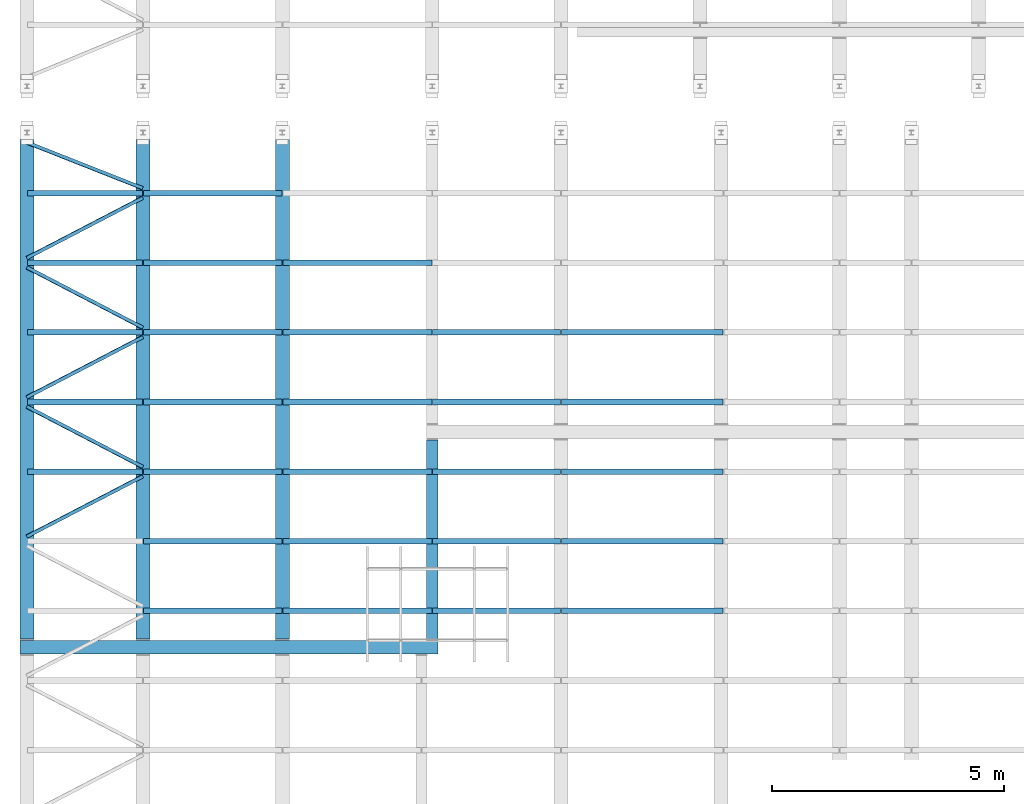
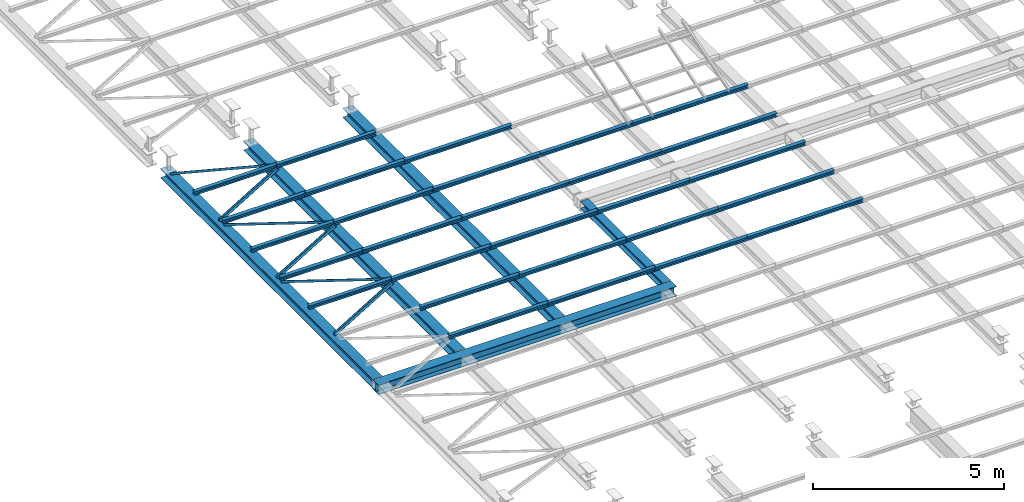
# One storey, part 54 of 139: 39 beams.
"""IFC2X3 building model written with IfcOpenShell, lengths in metres."""

from ifc_helpers import new_model, entity, si_unit, converted_unit, derived_unit, frame, origin, place, context, subcontext, project, spatial, polyline, outline, extrude, material, element, save


model = new_model("IFC2X3")

# Units and contexts
model_context = context("Model", 3, precision=1e-05, world=origin())
body_context = subcontext(model_context, "Body", "Model", "MODEL_VIEW")
ifc_project = project(units=[si_unit("LENGTHUNIT", "METRE"), si_unit("AREAUNIT", "SQUARE_METRE"), si_unit("VOLUMEUNIT", "CUBIC_METRE"), si_unit("MASSUNIT", "GRAM", prefix="KILO"), converted_unit("PLANEANGLEUNIT", "DEGREE", entity("IfcPlaneAngleMeasure", 0.0174532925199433), si_unit("PLANEANGLEUNIT", "RADIAN"), dimensions=[0, 0, 0, 0, 0, 0, 0]), derived_unit("THERMALTRANSMITTANCEUNIT", [(si_unit("POWERUNIT", "WATT"), 1), (si_unit("THERMODYNAMICTEMPERATUREUNIT", "KELVIN"), -1), (si_unit("LENGTHUNIT", "METRE"), -2)]), derived_unit("VOLUMETRICFLOWRATEUNIT", [(si_unit("LENGTHUNIT", "METRE"), 3), (converted_unit("TIMEUNIT", "hour", entity("IfcTimeMeasure", 3600.0), si_unit("TIMEUNIT", "SECOND"), dimensions=[0, 0, 1, 0, 0, 0, 0]), -1), (si_unit("LENGTHUNIT", "METRE"), -1)])], contexts=[model_context])

# Site, building, storey
site_placement = place(None, origin())
site = spatial("IfcSite", under=ifc_project, at=site_placement, Name="TWP_Speiseverteilzentrum SBW VZ II", CompositionType="ELEMENT")
building_placement = place(site_placement, origin())
building = spatial("IfcBuilding", under=site, at=building_placement, Name="Speiseverteilzentrum SBW VZ II", CompositionType="ELEMENT")
storey_placement = place(building_placement, frame((0.0, 0.0, 7.1307)))
storey = spatial("IfcBuildingStorey", under=building, at=storey_placement, Name="Wartung_FFB", CompositionType="ELEMENT", Elevation=7.1307)

# Beams
ifc_material_1 = material(Name="S235")
beam_1_placement = place(storey_placement, frame((19.2800000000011, 63.2824932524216, -0.305), z_axis=(0.0, 0.0, 1.0), x_axis=(-1.0, 0.0, 0.0)))
element("IfcBeam", 1, at=beam_1_placement, inside=storey, material=ifc_material_1, Name="Stahlträger", context=body_context, shape_type="SweptSolid", body=[
    extrude(outline(polyline([(-0.12, 0.115), (-0.12, 0.103), (-0.00375000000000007, 0.103), (-0.00375000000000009, -0.103), (-0.12, -0.103), (-0.12, -0.115), (0.12, -0.115), (0.12, -0.103), (0.00374999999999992, -0.103), (0.00374999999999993, 0.103), (0.12, 0.103), (0.12, 0.115), (-0.12, 0.115)])), frame((0.0, 0.0, 0.0), z_axis=(0.0, 1.0, 0.0), x_axis=(-1.0, 0.0, 0.0)), (0.0, 0.0, 1.0), 4.28995649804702),
])
ifc_material_2 = material(Name="S235")
beam_2_placement = place(storey_placement, frame((10.4000000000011, 58.8175367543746, -0.345), z_axis=(0.0, 0.0, 1.0), x_axis=(-1.22464679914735e-16, -1.0, 0.0)))
element("IfcBeam", 2, at=beam_2_placement, inside=storey, material=ifc_material_2, Name="Stahlträger", context=body_context, shape_type="SweptSolid", body=[
    extrude(outline(polyline([(-0.15, 0.155), (-0.15, 0.1395), (-0.00449999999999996, 0.1395), (-0.00449999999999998, -0.1395), (-0.15, -0.1395), (-0.15, -0.155), (0.15, -0.155), (0.15, -0.1395), (0.00450000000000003, -0.1395), (0.00450000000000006, 0.1395), (0.15, 0.1395), (0.15, 0.155), (-0.15, 0.155)])), frame((0.0, 0.0, 0.0), z_axis=(0.0, 1.0, 0.0), x_axis=(-1.0, 0.0, 0.0)), (0.0, 0.0, 1.0), 9.0),
])
ifc_material_3 = material(Name="S235")
beam_3_placement = place(storey_placement, frame((13.0500000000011, 70.0522526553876, -0.335), z_axis=(0.0, 0.0, 1.0), x_axis=(-1.0, 0.0, 0.0)))
element("IfcBeam", 3, at=beam_3_placement, inside=storey, material=ifc_material_3, Name="Stahlträger", context=body_context, shape_type="SweptSolid", body=[
    extrude(outline(polyline([(-0.15, 0.145), (-0.15, 0.131), (-0.00424999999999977, 0.131), (-0.00424999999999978, -0.131), (-0.15, -0.131), (-0.15, -0.145), (0.15, -0.145), (0.15, -0.131), (0.00425000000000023, -0.131), (0.00425000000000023, 0.131), (0.15, 0.131), (0.15, 0.145), (-0.15, 0.145)])), frame((0.0, 0.0, 0.0), z_axis=(0.0, 1.0, 0.0), x_axis=(-1.0, 0.0, 0.0)), (0.0, 0.0, 1.0), 11.0597159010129),
])
ifc_material_4 = material(Name="S235")
beam_4_placement = place(storey_placement, frame((10.5500000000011, 70.0522526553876, -0.335), z_axis=(0.0, 0.0, 1.0), x_axis=(-1.0, 0.0, 0.0)))
element("IfcBeam", 4, at=beam_4_placement, inside=storey, material=ifc_material_4, Name="Stahlträger", context=body_context, shape_type="SweptSolid", body=[
    extrude(outline(polyline([(-0.15, 0.145), (-0.15, 0.131), (-0.00424999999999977, 0.131), (-0.00424999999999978, -0.131), (-0.15, -0.131), (-0.15, -0.145), (0.15, -0.145), (0.15, -0.131), (0.00425000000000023, -0.131), (0.00425000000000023, 0.131), (0.15, 0.131), (0.15, 0.145), (-0.15, 0.145)])), frame((0.0, 0.0, 0.0), z_axis=(0.0, 1.0, 0.0), x_axis=(-1.0, 0.0, 0.0)), (0.0, 0.0, 1.0), 11.0597159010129),
])
ifc_material_5 = material(Name="S235")
beam_5_placement = place(storey_placement, frame((16.0500000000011, 70.0522526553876, -0.335), z_axis=(0.0, 0.0, 1.0), x_axis=(-1.0, 0.0, 0.0)))
element("IfcBeam", 5, at=beam_5_placement, inside=storey, material=ifc_material_5, Name="Stahlträger", context=body_context, shape_type="SweptSolid", body=[
    extrude(outline(polyline([(-0.15, 0.145), (-0.15, 0.131), (-0.00424999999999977, 0.131), (-0.00424999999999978, -0.131), (-0.15, -0.131), (-0.15, -0.145), (0.15, -0.145), (0.15, -0.131), (0.00425000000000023, -0.131), (0.00425000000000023, 0.131), (0.15, 0.131), (0.15, 0.145), (-0.15, 0.145)])), frame((0.0, 0.0, 0.0), z_axis=(0.0, 1.0, 0.0), x_axis=(-1.0, 0.0, 0.0)), (0.0, 0.0, 1.0), 11.0597159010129),
])
ifc_material_6 = material(Name="S235")
beam_6_placement = place(storey_placement, frame((13.0600000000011, 68.6011263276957, -0.133), z_axis=(0.0, 0.0, 1.0), x_axis=(0.0, -1.0, 0.0)))
element("IfcBeam", 6, at=beam_6_placement, inside=storey, material=ifc_material_6, Name="Nebenträger", context=body_context, shape_type="SweptSolid", body=[
    extrude(outline(polyline([(-0.06, 0.0570000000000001), (-0.06, 0.0490000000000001), (-0.00249999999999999, 0.0490000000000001), (-0.0025, -0.0489999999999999), (-0.06, -0.0489999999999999), (-0.06, -0.0569999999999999), (0.06, -0.0569999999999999), (0.06, -0.0489999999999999), (0.0025, -0.0489999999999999), (0.00250000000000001, 0.0490000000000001), (0.06, 0.0490000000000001), (0.06, 0.0570000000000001), (-0.06, 0.0570000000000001)])), frame((0.0, 0.0, 0.0), z_axis=(0.0, 1.0, 0.0), x_axis=(-1.0, 0.0, 0.0)), (0.0, 0.0, 1.0), 2.98),
])
ifc_material_7 = material(Name="S235")
beam_7_placement = place(storey_placement, frame((10.5600000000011, 68.6011263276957, -0.133), z_axis=(0.0, 0.0, 1.0), x_axis=(0.0, -1.0, 0.0)))
element("IfcBeam", 7, at=beam_7_placement, inside=storey, material=ifc_material_7, Name="Nebenträger", context=body_context, shape_type="SweptSolid", body=[
    extrude(outline(polyline([(-0.06, 0.0570000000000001), (-0.06, 0.0490000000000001), (-0.00249999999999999, 0.0490000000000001), (-0.0025, -0.0489999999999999), (-0.06, -0.0489999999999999), (-0.06, -0.0569999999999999), (0.06, -0.0569999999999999), (0.06, -0.0489999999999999), (0.0025, -0.0489999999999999), (0.00250000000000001, 0.0490000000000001), (0.06, 0.0490000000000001), (0.06, 0.0570000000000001), (-0.06, 0.0570000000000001)])), frame((0.0, 0.0, 0.0), z_axis=(0.0, 1.0, 0.0), x_axis=(-1.0, 0.0, 0.0)), (0.0, 0.0, 1.0), 2.48000000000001),
])
ifc_material_8 = material(Name="S235")
beam_8_placement = place(storey_placement, frame((13.0600000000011, 67.1011263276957, -0.133), z_axis=(0.0, 0.0, 1.0), x_axis=(0.0, -1.0, 0.0)))
element("IfcBeam", 8, at=beam_8_placement, inside=storey, material=ifc_material_8, Name="Nebenträger", context=body_context, shape_type="SweptSolid", body=[
    extrude(outline(polyline([(-0.06, 0.0570000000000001), (-0.06, 0.0490000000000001), (-0.00249999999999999, 0.0490000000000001), (-0.0025, -0.0489999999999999), (-0.06, -0.0489999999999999), (-0.06, -0.0569999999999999), (0.06, -0.0569999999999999), (0.06, -0.0489999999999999), (0.0025, -0.0489999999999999), (0.00250000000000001, 0.0490000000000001), (0.06, 0.0490000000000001), (0.06, 0.0570000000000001), (-0.06, 0.0570000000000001)])), frame((0.0, 0.0, 0.0), z_axis=(0.0, 1.0, 0.0), x_axis=(-1.0, 0.0, 0.0)), (0.0, 0.0, 1.0), 2.98),
])
ifc_material_9 = material(Name="S235")
beam_9_placement = place(storey_placement, frame((10.5600000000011, 67.1011263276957, -0.133), z_axis=(0.0, 0.0, 1.0), x_axis=(0.0, -1.0, 0.0)))
element("IfcBeam", 9, at=beam_9_placement, inside=storey, material=ifc_material_9, Name="Nebenträger", context=body_context, shape_type="SweptSolid", body=[
    extrude(outline(polyline([(-0.06, 0.0570000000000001), (-0.06, 0.0490000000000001), (-0.00249999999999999, 0.0490000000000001), (-0.0025, -0.0489999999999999), (-0.06, -0.0489999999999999), (-0.06, -0.0569999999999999), (0.06, -0.0569999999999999), (0.06, -0.0489999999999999), (0.0025, -0.0489999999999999), (0.00250000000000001, 0.0490000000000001), (0.06, 0.0490000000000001), (0.06, 0.0570000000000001), (-0.06, 0.0570000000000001)])), frame((0.0, 0.0, 0.0), z_axis=(0.0, 1.0, 0.0), x_axis=(-1.0, 0.0, 0.0)), (0.0, 0.0, 1.0), 2.48000000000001),
])
ifc_material_10 = material(Name="S235")
beam_10_placement = place(storey_placement, frame((13.0600000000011, 65.6011263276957, -0.133), z_axis=(0.0, 0.0, 1.0), x_axis=(0.0, -1.0, 0.0)))
element("IfcBeam", 10, at=beam_10_placement, inside=storey, material=ifc_material_10, Name="Nebenträger", context=body_context, shape_type="SweptSolid", body=[
    extrude(outline(polyline([(-0.06, 0.0570000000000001), (-0.06, 0.0490000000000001), (-0.00249999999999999, 0.0490000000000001), (-0.0025, -0.0489999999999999), (-0.06, -0.0489999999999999), (-0.06, -0.0569999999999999), (0.06, -0.0569999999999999), (0.06, -0.0489999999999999), (0.0025, -0.0489999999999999), (0.00250000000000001, 0.0490000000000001), (0.06, 0.0490000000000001), (0.06, 0.0570000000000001), (-0.06, 0.0570000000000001)])), frame((0.0, 0.0, 0.0), z_axis=(0.0, 1.0, 0.0), x_axis=(-1.0, 0.0, 0.0)), (0.0, 0.0, 1.0), 2.98),
])
ifc_material_11 = material(Name="S235")
beam_11_placement = place(storey_placement, frame((10.5600000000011, 65.6011263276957, -0.133), z_axis=(0.0, 0.0, 1.0), x_axis=(0.0, -1.0, 0.0)))
element("IfcBeam", 11, at=beam_11_placement, inside=storey, material=ifc_material_11, Name="Nebenträger", context=body_context, shape_type="SweptSolid", body=[
    extrude(outline(polyline([(-0.06, 0.0570000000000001), (-0.06, 0.0490000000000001), (-0.00249999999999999, 0.0490000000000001), (-0.0025, -0.0489999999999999), (-0.06, -0.0489999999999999), (-0.06, -0.0569999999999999), (0.06, -0.0569999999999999), (0.06, -0.0489999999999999), (0.0025, -0.0489999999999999), (0.00250000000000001, 0.0490000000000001), (0.06, 0.0490000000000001), (0.06, 0.0570000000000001), (-0.06, 0.0570000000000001)])), frame((0.0, 0.0, 0.0), z_axis=(0.0, 1.0, 0.0), x_axis=(-1.0, 0.0, 0.0)), (0.0, 0.0, 1.0), 2.48000000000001),
])
ifc_material_12 = material(Name="S235")
beam_12_placement = place(storey_placement, frame((13.0600000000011, 64.1011263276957, -0.133), z_axis=(0.0, 0.0, 1.0), x_axis=(0.0, -1.0, 0.0)))
element("IfcBeam", 12, at=beam_12_placement, inside=storey, material=ifc_material_12, Name="Nebenträger", context=body_context, shape_type="SweptSolid", body=[
    extrude(outline(polyline([(-0.06, 0.0570000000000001), (-0.06, 0.0490000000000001), (-0.00249999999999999, 0.0490000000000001), (-0.0025, -0.0489999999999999), (-0.06, -0.0489999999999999), (-0.06, -0.0569999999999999), (0.06, -0.0569999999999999), (0.06, -0.0489999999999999), (0.0025, -0.0489999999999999), (0.00250000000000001, 0.0490000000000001), (0.06, 0.0490000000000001), (0.06, 0.0570000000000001), (-0.06, 0.0570000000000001)])), frame((0.0, 0.0, 0.0), z_axis=(0.0, 1.0, 0.0), x_axis=(-1.0, 0.0, 0.0)), (0.0, 0.0, 1.0), 2.98),
])
ifc_material_13 = material(Name="S235")
beam_13_placement = place(storey_placement, frame((10.5600000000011, 64.1011263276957, -0.133), z_axis=(0.0, 0.0, 1.0), x_axis=(0.0, -1.0, 0.0)))
element("IfcBeam", 13, at=beam_13_placement, inside=storey, material=ifc_material_13, Name="Nebenträger", context=body_context, shape_type="SweptSolid", body=[
    extrude(outline(polyline([(-0.06, 0.0570000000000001), (-0.06, 0.0490000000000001), (-0.00249999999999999, 0.0490000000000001), (-0.0025, -0.0489999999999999), (-0.06, -0.0489999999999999), (-0.06, -0.0569999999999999), (0.06, -0.0569999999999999), (0.06, -0.0489999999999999), (0.0025, -0.0489999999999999), (0.00250000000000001, 0.0490000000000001), (0.06, 0.0490000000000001), (0.06, 0.0570000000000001), (-0.06, 0.0570000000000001)])), frame((0.0, 0.0, 0.0), z_axis=(0.0, 1.0, 0.0), x_axis=(-1.0, 0.0, 0.0)), (0.0, 0.0, 1.0), 2.48000000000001),
])
ifc_material_14 = material(Name="S235")
beam_14_placement = place(storey_placement, frame((13.0600000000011, 62.6011263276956, -0.133), z_axis=(0.0, 0.0, 1.0), x_axis=(0.0, -1.0, 0.0)))
element("IfcBeam", 14, at=beam_14_placement, inside=storey, material=ifc_material_14, Name="Nebenträger", context=body_context, shape_type="SweptSolid", body=[
    extrude(outline(polyline([(-0.06, 0.0570000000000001), (-0.06, 0.0490000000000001), (-0.00249999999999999, 0.0490000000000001), (-0.0025, -0.0489999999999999), (-0.06, -0.0489999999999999), (-0.06, -0.0569999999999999), (0.06, -0.0569999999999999), (0.06, -0.0489999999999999), (0.0025, -0.0489999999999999), (0.00250000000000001, 0.0490000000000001), (0.06, 0.0490000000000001), (0.06, 0.0570000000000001), (-0.06, 0.0570000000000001)])), frame((0.0, 0.0, 0.0), z_axis=(0.0, 1.0, 0.0), x_axis=(-1.0, 0.0, 0.0)), (0.0, 0.0, 1.0), 2.98),
])
ifc_material_15 = material(Name="S235")
beam_15_placement = place(storey_placement, frame((10.5600000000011, 62.6011263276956, -0.133), z_axis=(0.0, 0.0, 1.0), x_axis=(0.0, -1.0, 0.0)))
element("IfcBeam", 15, at=beam_15_placement, inside=storey, material=ifc_material_15, Name="Nebenträger", context=body_context, shape_type="SweptSolid", body=[
    extrude(outline(polyline([(-0.06, 0.0570000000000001), (-0.06, 0.0490000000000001), (-0.00249999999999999, 0.0490000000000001), (-0.0025, -0.0489999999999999), (-0.06, -0.0489999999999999), (-0.06, -0.0569999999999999), (0.06, -0.0569999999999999), (0.06, -0.0489999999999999), (0.0025, -0.0489999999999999), (0.00250000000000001, 0.0490000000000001), (0.06, 0.0490000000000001), (0.06, 0.0570000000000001), (-0.06, 0.0570000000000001)])), frame((0.0, 0.0, 0.0), z_axis=(0.0, 1.0, 0.0), x_axis=(-1.0, 0.0, 0.0)), (0.0, 0.0, 1.0), 2.48000000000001),
])
ifc_material_16 = material(Name="S235")
beam_16_placement = place(storey_placement, frame((13.0600000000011, 61.1011263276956, -0.133), z_axis=(0.0, 0.0, 1.0), x_axis=(0.0, -1.0, 0.0)))
element("IfcBeam", 16, at=beam_16_placement, inside=storey, material=ifc_material_16, Name="Nebenträger", context=body_context, shape_type="SweptSolid", body=[
    extrude(outline(polyline([(-0.06, 0.0570000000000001), (-0.06, 0.0490000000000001), (-0.00249999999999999, 0.0490000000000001), (-0.0025, -0.0489999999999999), (-0.06, -0.0489999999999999), (-0.06, -0.0569999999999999), (0.06, -0.0569999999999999), (0.06, -0.0489999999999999), (0.0025, -0.0489999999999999), (0.00250000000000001, 0.0490000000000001), (0.06, 0.0490000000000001), (0.06, 0.0570000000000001), (-0.06, 0.0570000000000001)])), frame((0.0, 0.0, 0.0), z_axis=(0.0, 1.0, 0.0), x_axis=(-1.0, 0.0, 0.0)), (0.0, 0.0, 1.0), 2.98),
])
ifc_material_17 = material(Name="S235")
beam_17_placement = place(storey_placement, frame((13.0600000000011, 59.6011263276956, -0.133), z_axis=(0.0, 0.0, 1.0), x_axis=(0.0, -1.0, 0.0)))
element("IfcBeam", 17, at=beam_17_placement, inside=storey, material=ifc_material_17, Name="Nebenträger", context=body_context, shape_type="SweptSolid", body=[
    extrude(outline(polyline([(-0.06, 0.0570000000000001), (-0.06, 0.0490000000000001), (-0.00249999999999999, 0.0490000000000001), (-0.0025, -0.0489999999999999), (-0.06, -0.0489999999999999), (-0.06, -0.0569999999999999), (0.06, -0.0569999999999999), (0.06, -0.0489999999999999), (0.0025, -0.0489999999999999), (0.00250000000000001, 0.0490000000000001), (0.06, 0.0490000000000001), (0.06, 0.0570000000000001), (-0.06, 0.0570000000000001)])), frame((0.0, 0.0, 0.0), z_axis=(0.0, 1.0, 0.0), x_axis=(-1.0, 0.0, 0.0)), (0.0, 0.0, 1.0), 2.98),
])
ifc_material_18 = material(Name="S235")
beam_18_placement = place(storey_placement, frame((22.0600000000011, 65.6011263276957, -0.133), z_axis=(0.0, 0.0, 1.0), x_axis=(0.0, -1.0, 0.0)))
element("IfcBeam", 18, at=beam_18_placement, inside=storey, material=ifc_material_18, Name="Nebenträger", context=body_context, shape_type="SweptSolid", body=[
    extrude(outline(polyline([(-0.06, 0.0570000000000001), (-0.06, 0.0490000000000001), (-0.00249999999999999, 0.0490000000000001), (-0.0025, -0.0489999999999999), (-0.06, -0.0489999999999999), (-0.06, -0.0569999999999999), (0.06, -0.0569999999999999), (0.06, -0.0489999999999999), (0.0025, -0.0489999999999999), (0.00250000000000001, 0.0490000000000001), (0.06, 0.0490000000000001), (0.06, 0.0570000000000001), (-0.06, 0.0570000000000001)])), frame((0.0, 0.0, 0.0), z_axis=(0.0, 1.0, 0.0), x_axis=(-1.0, 0.0, 0.0)), (0.0, 0.0, 1.0), 3.48),
])
ifc_material_19 = material(Name="S235")
beam_19_placement = place(storey_placement, frame((22.0600000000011, 64.1011263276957, -0.133), z_axis=(0.0, 0.0, 1.0), x_axis=(0.0, -1.0, 0.0)))
element("IfcBeam", 19, at=beam_19_placement, inside=storey, material=ifc_material_19, Name="Nebenträger", context=body_context, shape_type="SweptSolid", body=[
    extrude(outline(polyline([(-0.06, 0.0570000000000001), (-0.06, 0.0490000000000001), (-0.00249999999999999, 0.0490000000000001), (-0.0025, -0.0489999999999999), (-0.06, -0.0489999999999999), (-0.06, -0.0569999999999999), (0.06, -0.0569999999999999), (0.06, -0.0489999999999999), (0.0025, -0.0489999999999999), (0.00250000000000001, 0.0490000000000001), (0.06, 0.0490000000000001), (0.06, 0.0570000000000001), (-0.06, 0.0570000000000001)])), frame((0.0, 0.0, 0.0), z_axis=(0.0, 1.0, 0.0), x_axis=(-1.0, 0.0, 0.0)), (0.0, 0.0, 1.0), 3.48),
])
ifc_material_20 = material(Name="S235")
beam_20_placement = place(storey_placement, frame((22.0600000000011, 62.6011263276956, -0.133), z_axis=(0.0, 0.0, 1.0), x_axis=(0.0, -1.0, 0.0)))
element("IfcBeam", 20, at=beam_20_placement, inside=storey, material=ifc_material_20, Name="Nebenträger", context=body_context, shape_type="SweptSolid", body=[
    extrude(outline(polyline([(-0.06, 0.0570000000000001), (-0.06, 0.0490000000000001), (-0.00249999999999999, 0.0490000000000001), (-0.0025, -0.0489999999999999), (-0.06, -0.0489999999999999), (-0.06, -0.0569999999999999), (0.06, -0.0569999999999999), (0.06, -0.0489999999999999), (0.0025, -0.0489999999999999), (0.00250000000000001, 0.0490000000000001), (0.06, 0.0490000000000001), (0.06, 0.0570000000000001), (-0.06, 0.0570000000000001)])), frame((0.0, 0.0, 0.0), z_axis=(0.0, 1.0, 0.0), x_axis=(-1.0, 0.0, 0.0)), (0.0, 0.0, 1.0), 3.48),
])
ifc_material_21 = material(Name="S235")
beam_21_placement = place(storey_placement, frame((22.0600000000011, 61.1011263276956, -0.133), z_axis=(0.0, 0.0, 1.0), x_axis=(0.0, -1.0, 0.0)))
element("IfcBeam", 21, at=beam_21_placement, inside=storey, material=ifc_material_21, Name="Nebenträger", context=body_context, shape_type="SweptSolid", body=[
    extrude(outline(polyline([(-0.06, 0.0570000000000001), (-0.06, 0.0490000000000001), (-0.00249999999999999, 0.0490000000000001), (-0.0025, -0.0489999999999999), (-0.06, -0.0489999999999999), (-0.06, -0.0569999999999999), (0.06, -0.0569999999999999), (0.06, -0.0489999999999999), (0.0025, -0.0489999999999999), (0.00250000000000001, 0.0490000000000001), (0.06, 0.0490000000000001), (0.06, 0.0570000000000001), (-0.06, 0.0570000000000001)])), frame((0.0, 0.0, 0.0), z_axis=(0.0, 1.0, 0.0), x_axis=(-1.0, 0.0, 0.0)), (0.0, 0.0, 1.0), 3.48),
])
ifc_material_22 = material(Name="S235")
beam_22_placement = place(storey_placement, frame((22.0600000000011, 59.6011263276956, -0.133), z_axis=(0.0, 0.0, 1.0), x_axis=(0.0, -1.0, 0.0)))
element("IfcBeam", 22, at=beam_22_placement, inside=storey, material=ifc_material_22, Name="Nebenträger", context=body_context, shape_type="SweptSolid", body=[
    extrude(outline(polyline([(-0.06, 0.0570000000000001), (-0.06, 0.0490000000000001), (-0.00249999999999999, 0.0490000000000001), (-0.0025, -0.0489999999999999), (-0.06, -0.0489999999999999), (-0.06, -0.0569999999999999), (0.06, -0.0569999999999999), (0.06, -0.0489999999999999), (0.0025, -0.0489999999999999), (0.00250000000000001, 0.0490000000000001), (0.06, 0.0490000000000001), (0.06, 0.0570000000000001), (-0.06, 0.0570000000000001)])), frame((0.0, 0.0, 0.0), z_axis=(0.0, 1.0, 0.0), x_axis=(-1.0, 0.0, 0.0)), (0.0, 0.0, 1.0), 3.48),
])
ifc_material_23 = material(Name="S235")
beam_23_placement = place(storey_placement, frame((16.0600000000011, 67.1011263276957, -0.133), z_axis=(0.0, 0.0, 1.0), x_axis=(0.0, -1.0, 0.0)))
element("IfcBeam", 23, at=beam_23_placement, inside=storey, material=ifc_material_23, Name="Nebenträger", context=body_context, shape_type="SweptSolid", body=[
    extrude(outline(polyline([(-0.06, 0.0570000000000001), (-0.06, 0.0490000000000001), (-0.00249999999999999, 0.0490000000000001), (-0.0025, -0.0489999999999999), (-0.06, -0.0489999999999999), (-0.06, -0.0569999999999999), (0.06, -0.0569999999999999), (0.06, -0.0489999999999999), (0.0025, -0.0489999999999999), (0.00250000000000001, 0.0490000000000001), (0.06, 0.0490000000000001), (0.06, 0.0570000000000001), (-0.06, 0.0570000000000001)])), frame((0.0, 0.0, 0.0), z_axis=(0.0, 1.0, 0.0), x_axis=(-1.0, 0.0, 0.0)), (0.0, 0.0, 1.0), 3.21),
])
ifc_material_24 = material(Name="S235")
beam_24_placement = place(storey_placement, frame((16.0600000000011, 65.6011263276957, -0.133), z_axis=(0.0, 0.0, 1.0), x_axis=(0.0, -1.0, 0.0)))
element("IfcBeam", 24, at=beam_24_placement, inside=storey, material=ifc_material_24, Name="Nebenträger", context=body_context, shape_type="SweptSolid", body=[
    extrude(outline(polyline([(-0.06, 0.0570000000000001), (-0.06, 0.0490000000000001), (-0.00249999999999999, 0.0490000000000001), (-0.0025, -0.0489999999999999), (-0.06, -0.0489999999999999), (-0.06, -0.0569999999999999), (0.06, -0.0569999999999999), (0.06, -0.0489999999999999), (0.0025, -0.0489999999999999), (0.00250000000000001, 0.0490000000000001), (0.06, 0.0490000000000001), (0.06, 0.0570000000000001), (-0.06, 0.0570000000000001)])), frame((0.0, 0.0, 0.0), z_axis=(0.0, 1.0, 0.0), x_axis=(-1.0, 0.0, 0.0)), (0.0, 0.0, 1.0), 3.21),
])
ifc_material_25 = material(Name="S235")
beam_25_placement = place(storey_placement, frame((19.2900000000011, 65.6011263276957, -0.133), z_axis=(0.0, 0.0, 1.0), x_axis=(0.0, -1.0, 0.0)))
element("IfcBeam", 25, at=beam_25_placement, inside=storey, material=ifc_material_25, Name="Nebenträger", context=body_context, shape_type="SweptSolid", body=[
    extrude(outline(polyline([(-0.06, 0.0570000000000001), (-0.06, 0.0490000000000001), (-0.00249999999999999, 0.0490000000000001), (-0.0025, -0.0489999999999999), (-0.06, -0.0489999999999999), (-0.06, -0.0569999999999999), (0.06, -0.0569999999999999), (0.06, -0.0489999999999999), (0.0025, -0.0489999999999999), (0.00250000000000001, 0.0490000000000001), (0.06, 0.0490000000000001), (0.06, 0.0570000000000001), (-0.06, 0.0570000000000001)])), frame((0.0, 0.0, 0.0), z_axis=(0.0, 1.0, 0.0), x_axis=(-1.0, 0.0, 0.0)), (0.0, 0.0, 1.0), 2.75),
])
ifc_material_26 = material(Name="S235")
beam_26_placement = place(storey_placement, frame((16.0600000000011, 64.1011263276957, -0.133), z_axis=(0.0, 0.0, 1.0), x_axis=(0.0, -1.0, 0.0)))
element("IfcBeam", 26, at=beam_26_placement, inside=storey, material=ifc_material_26, Name="Nebenträger", context=body_context, shape_type="SweptSolid", body=[
    extrude(outline(polyline([(-0.06, 0.0570000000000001), (-0.06, 0.0490000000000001), (-0.00249999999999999, 0.0490000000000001), (-0.0025, -0.0489999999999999), (-0.06, -0.0489999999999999), (-0.06, -0.0569999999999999), (0.06, -0.0569999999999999), (0.06, -0.0489999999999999), (0.0025, -0.0489999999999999), (0.00250000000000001, 0.0490000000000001), (0.06, 0.0490000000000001), (0.06, 0.0570000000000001), (-0.06, 0.0570000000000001)])), frame((0.0, 0.0, 0.0), z_axis=(0.0, 1.0, 0.0), x_axis=(-1.0, 0.0, 0.0)), (0.0, 0.0, 1.0), 3.21),
])
ifc_material_27 = material(Name="S235")
beam_27_placement = place(storey_placement, frame((19.2900000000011, 64.1011263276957, -0.133), z_axis=(0.0, 0.0, 1.0), x_axis=(0.0, -1.0, 0.0)))
element("IfcBeam", 27, at=beam_27_placement, inside=storey, material=ifc_material_27, Name="Nebenträger", context=body_context, shape_type="SweptSolid", body=[
    extrude(outline(polyline([(-0.06, 0.0570000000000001), (-0.06, 0.0490000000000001), (-0.00249999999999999, 0.0490000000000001), (-0.0025, -0.0489999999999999), (-0.06, -0.0489999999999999), (-0.06, -0.0569999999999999), (0.06, -0.0569999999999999), (0.06, -0.0489999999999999), (0.0025, -0.0489999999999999), (0.00250000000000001, 0.0490000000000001), (0.06, 0.0490000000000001), (0.06, 0.0570000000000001), (-0.06, 0.0570000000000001)])), frame((0.0, 0.0, 0.0), z_axis=(0.0, 1.0, 0.0), x_axis=(-1.0, 0.0, 0.0)), (0.0, 0.0, 1.0), 2.75),
])
ifc_material_28 = material(Name="S235")
beam_28_placement = place(storey_placement, frame((16.0600000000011, 62.6011263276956, -0.133), z_axis=(0.0, 0.0, 1.0), x_axis=(0.0, -1.0, 0.0)))
element("IfcBeam", 28, at=beam_28_placement, inside=storey, material=ifc_material_28, Name="Nebenträger", context=body_context, shape_type="SweptSolid", body=[
    extrude(outline(polyline([(-0.06, 0.0570000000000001), (-0.06, 0.0490000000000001), (-0.00249999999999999, 0.0490000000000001), (-0.0025, -0.0489999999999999), (-0.06, -0.0489999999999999), (-0.06, -0.0569999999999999), (0.06, -0.0569999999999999), (0.06, -0.0489999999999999), (0.0025, -0.0489999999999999), (0.00250000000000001, 0.0490000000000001), (0.06, 0.0490000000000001), (0.06, 0.0570000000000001), (-0.06, 0.0570000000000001)])), frame((0.0, 0.0, 0.0), z_axis=(0.0, 1.0, 0.0), x_axis=(-1.0, 0.0, 0.0)), (0.0, 0.0, 1.0), 3.21),
])
ifc_material_29 = material(Name="S235")
beam_29_placement = place(storey_placement, frame((19.2900000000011, 62.6011263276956, -0.133), z_axis=(0.0, 0.0, 1.0), x_axis=(0.0, -1.0, 0.0)))
element("IfcBeam", 29, at=beam_29_placement, inside=storey, material=ifc_material_29, Name="Nebenträger", context=body_context, shape_type="SweptSolid", body=[
    extrude(outline(polyline([(-0.06, 0.0570000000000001), (-0.06, 0.0490000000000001), (-0.00249999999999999, 0.0490000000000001), (-0.0025, -0.0489999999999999), (-0.06, -0.0489999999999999), (-0.06, -0.0569999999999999), (0.06, -0.0569999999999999), (0.06, -0.0489999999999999), (0.0025, -0.0489999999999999), (0.00250000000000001, 0.0490000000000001), (0.06, 0.0490000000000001), (0.06, 0.0570000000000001), (-0.06, 0.0570000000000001)])), frame((0.0, 0.0, 0.0), z_axis=(0.0, 1.0, 0.0), x_axis=(-1.0, 0.0, 0.0)), (0.0, 0.0, 1.0), 2.75),
])
ifc_material_30 = material(Name="S235")
beam_30_placement = place(storey_placement, frame((16.0600000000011, 61.1011263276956, -0.133), z_axis=(0.0, 0.0, 1.0), x_axis=(0.0, -1.0, 0.0)))
element("IfcBeam", 30, at=beam_30_placement, inside=storey, material=ifc_material_30, Name="Nebenträger", context=body_context, shape_type="SweptSolid", body=[
    extrude(outline(polyline([(-0.06, 0.0570000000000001), (-0.06, 0.0490000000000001), (-0.00249999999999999, 0.0490000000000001), (-0.0025, -0.0489999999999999), (-0.06, -0.0489999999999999), (-0.06, -0.0569999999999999), (0.06, -0.0569999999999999), (0.06, -0.0489999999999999), (0.0025, -0.0489999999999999), (0.00250000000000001, 0.0490000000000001), (0.06, 0.0490000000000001), (0.06, 0.0570000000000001), (-0.06, 0.0570000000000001)])), frame((0.0, 0.0, 0.0), z_axis=(0.0, 1.0, 0.0), x_axis=(-1.0, 0.0, 0.0)), (0.0, 0.0, 1.0), 3.21),
])
ifc_material_31 = material(Name="S235")
beam_31_placement = place(storey_placement, frame((19.2900000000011, 61.1011263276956, -0.133), z_axis=(0.0, 0.0, 1.0), x_axis=(0.0, -1.0, 0.0)))
element("IfcBeam", 31, at=beam_31_placement, inside=storey, material=ifc_material_31, Name="Nebenträger", context=body_context, shape_type="SweptSolid", body=[
    extrude(outline(polyline([(-0.06, 0.0570000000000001), (-0.06, 0.0490000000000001), (-0.00249999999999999, 0.0490000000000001), (-0.0025, -0.0489999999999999), (-0.06, -0.0489999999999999), (-0.06, -0.0569999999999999), (0.06, -0.0569999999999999), (0.06, -0.0489999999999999), (0.0025, -0.0489999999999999), (0.00250000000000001, 0.0490000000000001), (0.06, 0.0490000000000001), (0.06, 0.0570000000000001), (-0.06, 0.0570000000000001)])), frame((0.0, 0.0, 0.0), z_axis=(0.0, 1.0, 0.0), x_axis=(-1.0, 0.0, 0.0)), (0.0, 0.0, 1.0), 2.75),
])
ifc_material_32 = material(Name="S235")
beam_32_placement = place(storey_placement, frame((16.0600000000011, 59.6011263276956, -0.133), z_axis=(0.0, 0.0, 1.0), x_axis=(0.0, -1.0, 0.0)))
element("IfcBeam", 32, at=beam_32_placement, inside=storey, material=ifc_material_32, Name="Nebenträger", context=body_context, shape_type="SweptSolid", body=[
    extrude(outline(polyline([(-0.06, 0.0570000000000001), (-0.06, 0.0490000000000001), (-0.00249999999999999, 0.0490000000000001), (-0.0025, -0.0489999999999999), (-0.06, -0.0489999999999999), (-0.06, -0.0569999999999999), (0.06, -0.0569999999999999), (0.06, -0.0489999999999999), (0.0025, -0.0489999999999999), (0.00250000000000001, 0.0490000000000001), (0.06, 0.0490000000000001), (0.06, 0.0570000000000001), (-0.06, 0.0570000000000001)])), frame((0.0, 0.0, 0.0), z_axis=(0.0, 1.0, 0.0), x_axis=(-1.0, 0.0, 0.0)), (0.0, 0.0, 1.0), 3.21),
])
ifc_material_33 = material(Name="S235")
beam_33_placement = place(storey_placement, frame((19.2900000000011, 59.6011263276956, -0.133), z_axis=(0.0, 0.0, 1.0), x_axis=(0.0, -1.0, 0.0)))
element("IfcBeam", 33, at=beam_33_placement, inside=storey, material=ifc_material_33, Name="Nebenträger", context=body_context, shape_type="SweptSolid", body=[
    extrude(outline(polyline([(-0.06, 0.0570000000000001), (-0.06, 0.0490000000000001), (-0.00249999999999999, 0.0490000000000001), (-0.0025, -0.0489999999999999), (-0.06, -0.0489999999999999), (-0.06, -0.0569999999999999), (0.06, -0.0569999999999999), (0.06, -0.0489999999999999), (0.0025, -0.0489999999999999), (0.00250000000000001, 0.0490000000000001), (0.06, 0.0490000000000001), (0.06, 0.0570000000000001), (-0.06, 0.0570000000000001)])), frame((0.0, 0.0, 0.0), z_axis=(0.0, 1.0, 0.0), x_axis=(-1.0, 0.0, 0.0)), (0.0, 0.0, 1.0), 2.75),
])
ifc_material_34 = material(Name="S235")
beam_34_placement = place(storey_placement, frame((10.5365784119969, 67.2179448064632, -0.167052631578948), z_axis=(0.0, 0.0, 1.0), x_axis=(0.4612662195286, -0.887261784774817, 0.0)))
element("IfcBeam", 34, at=beam_34_placement, inside=storey, material=ifc_material_34, Name="Kreuzverband", context=body_context, shape_type="SweptSolid", body=[
    extrude(outline(polyline([(0.0229473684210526, -0.0229473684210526), (0.0229473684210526, 0.0570526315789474), (0.0149473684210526, 0.0570526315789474), (0.0149473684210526, -0.0149473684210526), (-0.0570526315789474, -0.0149473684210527), (-0.0570526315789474, -0.0229473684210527), (0.0229473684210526, -0.0229473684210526)])), frame((0.0, 0.0, 0.0), z_axis=(0.0, 1.00000000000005, 0.0), x_axis=(-1.0, 0.0, 0.0)), (0.0, 0.0, 1.0), 2.82000000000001),
])
ifc_material_35 = material(Name="S235")
beam_35_placement = place(storey_placement, frame((10.5365784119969, 66.9843078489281, -0.167052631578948), z_axis=(0.0, 0.0, 1.0), x_axis=(-0.4612662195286, -0.887261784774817, 0.0)))
element("IfcBeam", 35, at=beam_35_placement, inside=storey, material=ifc_material_35, Name="Kreuzverband", context=body_context, shape_type="SweptSolid", body=[
    extrude(outline(polyline([(0.0570526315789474, -0.0229473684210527), (0.0570526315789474, -0.0149473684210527), (-0.0149473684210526, -0.0149473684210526), (-0.0149473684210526, 0.0570526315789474), (-0.0229473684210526, 0.0570526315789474), (-0.0229473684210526, -0.0229473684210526), (0.0570526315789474, -0.0229473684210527)])), frame((0.0, 0.0, 0.0), z_axis=(0.0, 1.00000000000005, 0.0), x_axis=(-1.0, 0.0, 0.0)), (0.0, 0.0, 1.0), 2.82000000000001),
])
ifc_material_36 = material(Name="S235")
beam_36_placement = place(storey_placement, frame((10.5365784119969, 64.2179448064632, -0.167052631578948), z_axis=(0.0, 0.0, 1.0), x_axis=(0.4612662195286, -0.887261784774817, 0.0)))
element("IfcBeam", 36, at=beam_36_placement, inside=storey, material=ifc_material_36, Name="Kreuzverband", context=body_context, shape_type="SweptSolid", body=[
    extrude(outline(polyline([(0.0229473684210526, -0.0229473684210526), (0.0229473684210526, 0.0570526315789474), (0.0149473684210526, 0.0570526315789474), (0.0149473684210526, -0.0149473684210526), (-0.0570526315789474, -0.0149473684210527), (-0.0570526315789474, -0.0229473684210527), (0.0229473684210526, -0.0229473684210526)])), frame((0.0, 0.0, 0.0), z_axis=(0.0, 1.00000000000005, 0.0), x_axis=(-1.0, 0.0, 0.0)), (0.0, 0.0, 1.0), 2.82000000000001),
])
ifc_material_37 = material(Name="S235")
beam_37_placement = place(storey_placement, frame((10.5365784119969, 63.9843078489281, -0.167052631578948), z_axis=(0.0, 0.0, 1.0), x_axis=(-0.4612662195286, -0.887261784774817, 0.0)))
element("IfcBeam", 37, at=beam_37_placement, inside=storey, material=ifc_material_37, Name="Kreuzverband", context=body_context, shape_type="SweptSolid", body=[
    extrude(outline(polyline([(0.0570526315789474, -0.0229473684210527), (0.0570526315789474, -0.0149473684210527), (-0.0149473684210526, -0.0149473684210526), (-0.0149473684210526, 0.0570526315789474), (-0.0229473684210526, 0.0570526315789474), (-0.0229473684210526, -0.0229473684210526), (0.0570526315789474, -0.0229473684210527)])), frame((0.0, 0.0, 0.0), z_axis=(0.0, 1.00000000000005, 0.0), x_axis=(-1.0, 0.0, 0.0)), (0.0, 0.0, 1.0), 2.82000000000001),
])
ifc_material_38 = material(Name="S235")
beam_38_placement = place(storey_placement, frame((10.5365784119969, 61.2179448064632, -0.167052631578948), z_axis=(0.0, 0.0, 1.0), x_axis=(0.4612662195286, -0.887261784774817, 0.0)))
element("IfcBeam", 38, at=beam_38_placement, inside=storey, material=ifc_material_38, Name="Kreuzverband", context=body_context, shape_type="SweptSolid", body=[
    extrude(outline(polyline([(0.0229473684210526, -0.0229473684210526), (0.0229473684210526, 0.0570526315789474), (0.0149473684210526, 0.0570526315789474), (0.0149473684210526, -0.0149473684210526), (-0.0570526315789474, -0.0149473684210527), (-0.0570526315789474, -0.0229473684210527), (0.0229473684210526, -0.0229473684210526)])), frame((0.0, 0.0, 0.0), z_axis=(0.0, 1.00000000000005, 0.0), x_axis=(-1.0, 0.0, 0.0)), (0.0, 0.0, 1.0), 2.82000000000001),
])
ifc_material_39 = material(Name="S235")
beam_39_placement = place(storey_placement, frame((10.4878803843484, 69.6938814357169, -0.167052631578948), z_axis=(0.0, 0.0, 1.0), x_axis=(-0.367174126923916, -0.930152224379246, 0.0)))
element("IfcBeam", 39, at=beam_39_placement, inside=storey, material=ifc_material_39, Name="Kreuzverband", context=body_context, shape_type="SweptSolid", body=[
    extrude(outline(polyline([(0.0570526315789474, -0.0229473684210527), (0.0570526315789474, -0.0149473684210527), (-0.0149473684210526, -0.0149473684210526), (-0.0149473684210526, 0.0570526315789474), (-0.0229473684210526, 0.0570526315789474), (-0.0229473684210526, -0.0229473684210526), (0.0570526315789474, -0.0229473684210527)])), frame((0.0, 0.0, 0.0), z_axis=(0.0, 1.0, 0.0), x_axis=(-1.0, 0.0, 0.0)), (0.0, 0.0, 1.0), 2.74),
])

save(model, "model.ifc")
